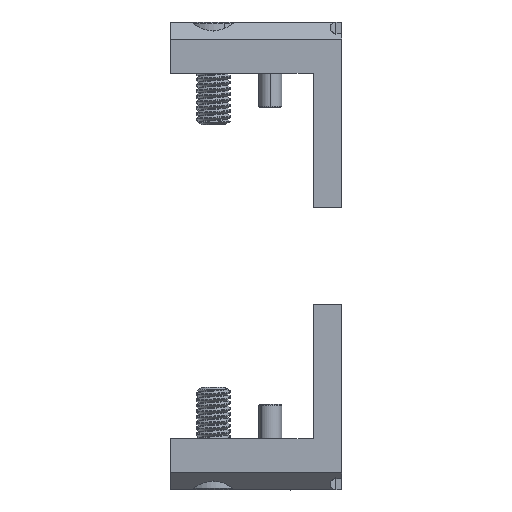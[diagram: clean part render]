
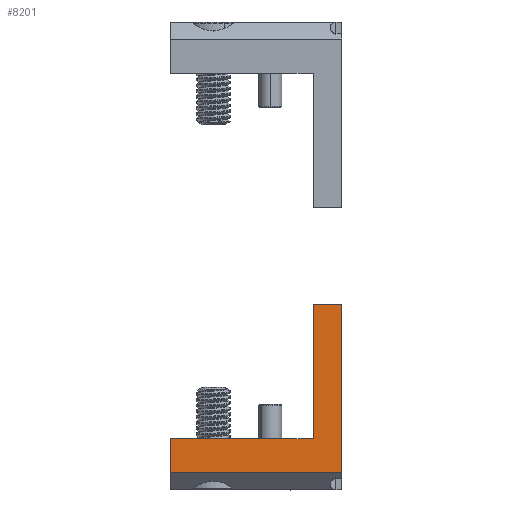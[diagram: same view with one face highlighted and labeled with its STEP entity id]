
A CAD part, left-side view. The second image highlights one B-rep face of the part: STEP entity #8201.
In plain terms, the highlighted planar face has unit normal (-1, 0, 0).
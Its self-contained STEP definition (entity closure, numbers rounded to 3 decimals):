
#318 = LINE ( 'NONE', #15268, #4673 ) ;
#323 = ORIENTED_EDGE ( 'NONE', *, *, #7845, .F. ) ;
#761 = VERTEX_POINT ( 'NONE', #15902 ) ;
#1499 = AXIS2_PLACEMENT_3D ( 'NONE', #14128, #2892, #4750 ) ;
#2030 = CARTESIAN_POINT ( 'NONE',  ( -26., 25., -1.5 ) ) ;
#2133 = LINE ( 'NONE', #16966, #18074 ) ;
#2166 = EDGE_CURVE ( 'NONE', #13996, #4490, #14511, .T. ) ;
#2892 = DIRECTION ( 'NONE',  ( 1., 0., 0. ) ) ;
#2914 = ORIENTED_EDGE ( 'NONE', *, *, #7289, .F. ) ;
#4018 = CARTESIAN_POINT ( 'NONE',  ( -26., 0., 28. ) ) ;
#4039 = ORIENTED_EDGE ( 'NONE', *, *, #2166, .T. ) ;
#4110 = DIRECTION ( 'NONE',  ( 0., 0., 1. ) ) ;
#4427 = LINE ( 'NONE', #10356, #11786 ) ;
#4490 = VERTEX_POINT ( 'NONE', #12088 ) ;
#4495 = PLANE ( 'NONE',  #1499 ) ;
#4673 = VECTOR ( 'NONE', #9594, 1000. ) ;
#4750 = DIRECTION ( 'NONE',  ( 0., 0., -1. ) ) ;
#5716 = VECTOR ( 'NONE', #20446, 1000. ) ;
#6047 = CARTESIAN_POINT ( 'NONE',  ( -26., 25., -1.5 ) ) ;
#6536 = DIRECTION ( 'NONE',  ( 0., -1., 0. ) ) ;
#7289 = EDGE_CURVE ( 'NONE', #11583, #14295, #2133, .T. ) ;
#7845 = EDGE_CURVE ( 'NONE', #761, #14992, #318, .T. ) ;
#8201 = ADVANCED_FACE ( 'NONE', ( #21420 ), #4495, .F. ) ;
#8785 = EDGE_CURVE ( 'NONE', #11583, #14992, #17660, .T. ) ;
#9474 = EDGE_CURVE ( 'NONE', #14295, #4490, #4427, .T. ) ;
#9594 = DIRECTION ( 'NONE',  ( 0., 0., -1. ) ) ;
#9785 = VECTOR ( 'NONE', #6536, 1000. ) ;
#10356 = CARTESIAN_POINT ( 'NONE',  ( -26., 25., 4.5 ) ) ;
#11332 = ORIENTED_EDGE ( 'NONE', *, *, #13378, .F. ) ;
#11551 = DIRECTION ( 'NONE',  ( 0., -1., 0. ) ) ;
#11583 = VERTEX_POINT ( 'NONE', #2030 ) ;
#11786 = VECTOR ( 'NONE', #13685, 1000. ) ;
#12088 = CARTESIAN_POINT ( 'NONE',  ( -26., 0., 4.5 ) ) ;
#12266 = CARTESIAN_POINT ( 'NONE',  ( -26., 25., 4.5 ) ) ;
#12442 = CARTESIAN_POINT ( 'NONE',  ( -26., -5., -1.5 ) ) ;
#12478 = CARTESIAN_POINT ( 'NONE',  ( -26., 0., 28. ) ) ;
#13378 = EDGE_CURVE ( 'NONE', #13996, #761, #13409, .T. ) ;
#13409 = LINE ( 'NONE', #4018, #16179 ) ;
#13685 = DIRECTION ( 'NONE',  ( 0., -1., 0. ) ) ;
#13996 = VERTEX_POINT ( 'NONE', #12478 ) ;
#14128 = CARTESIAN_POINT ( 'NONE',  ( -26., 25., -4.5 ) ) ;
#14295 = VERTEX_POINT ( 'NONE', #12266 ) ;
#14511 = LINE ( 'NONE', #22054, #5716 ) ;
#14992 = VERTEX_POINT ( 'NONE', #12442 ) ;
#15268 = CARTESIAN_POINT ( 'NONE',  ( -26., -5., 4.5 ) ) ;
#15398 = ORIENTED_EDGE ( 'NONE', *, *, #8785, .T. ) ;
#15502 = ORIENTED_EDGE ( 'NONE', *, *, #9474, .F. ) ;
#15902 = CARTESIAN_POINT ( 'NONE',  ( -26., -5., 28. ) ) ;
#16179 = VECTOR ( 'NONE', #11551, 1000. ) ;
#16966 = CARTESIAN_POINT ( 'NONE',  ( -26., 25., -4.5 ) ) ;
#17660 = LINE ( 'NONE', #6047, #9785 ) ;
#18074 = VECTOR ( 'NONE', #4110, 1000. ) ;
#20446 = DIRECTION ( 'NONE',  ( 0., 0., -1. ) ) ;
#21420 = FACE_OUTER_BOUND ( 'NONE', #23507, .T. ) ;
#22054 = CARTESIAN_POINT ( 'NONE',  ( -26., 0., 28. ) ) ;
#23507 = EDGE_LOOP ( 'NONE', ( #2914, #15398, #323, #11332, #4039, #15502 ) ) ;
